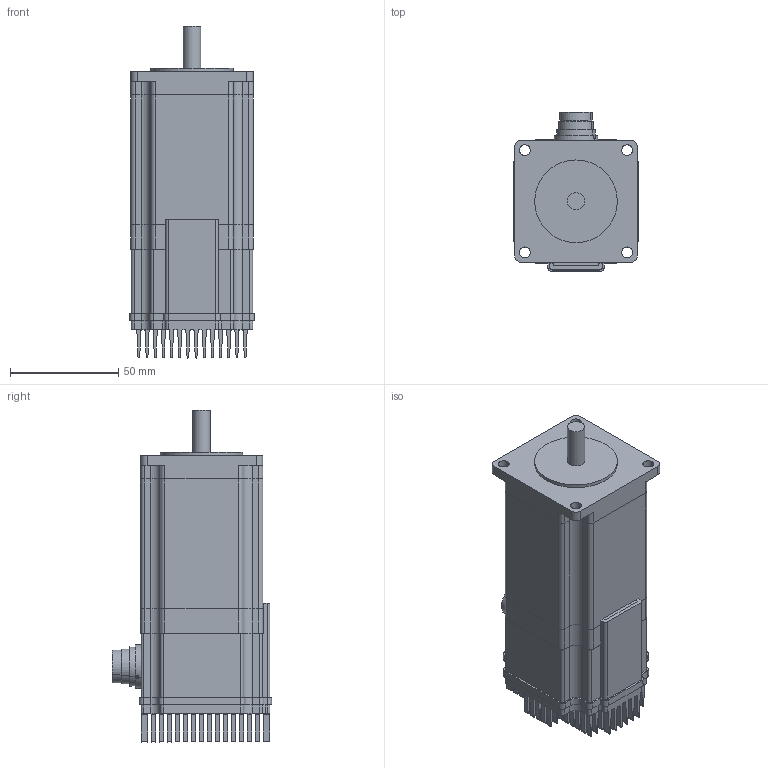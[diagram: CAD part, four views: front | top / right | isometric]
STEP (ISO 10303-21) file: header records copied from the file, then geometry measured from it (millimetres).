
FILE_DESCRIPTION(/* description */ ('Alibre Inc.'),/* implementation_level */ '2;1');
FILE_NAME(/* name */ 'export0',/* time_stamp */ '2016-06-17T08:26:31-07:00',/* author */ (''),/* organization */ (''),/* preprocessor_version */ 'ST-DEVELOPER v14',/* originating_system */ 'Alibre',/* authorisation */ '');
FILE_SCHEMA (('AUTOMOTIVE_DESIGN'));
Length unit declared in the file: centimetre
Products named in the file (13): ID_1
Bounding box: 57.4 x 73.42 x 153.04 mm (x, y, z)
Volume: 274406.6 mm3; surface area: 82175.3 mm2
Topology: 14 solids, 14 shells, 1934 faces, 4989 edges, 3301 vertices
Faces by surface type: plane 1059, cylinder 826, cone 24, sphere 21, torus 4
Full cylindrical faces by diameter (mm): 0.483 x2, 2.156 x2, 2.459 x8, 2.54 x2, 2.616 x4, 2.705 x2, 3 x4, 3.175 x6, 3.556 x2, 4.089 x4, 5 x4, 6.35 x1, 8 x1, 38.1 x1
Entity records: 45428 total; most frequent: ORIENTED_EDGE 9332, CARTESIAN_POINT 7303, DIRECTION 6215, EDGE_CURVE 4666, VERTEX_POINT 3137, AXIS2_PLACEMENT_3D 2419, EDGE_LOOP 2177, FACE_BOUND 2177
